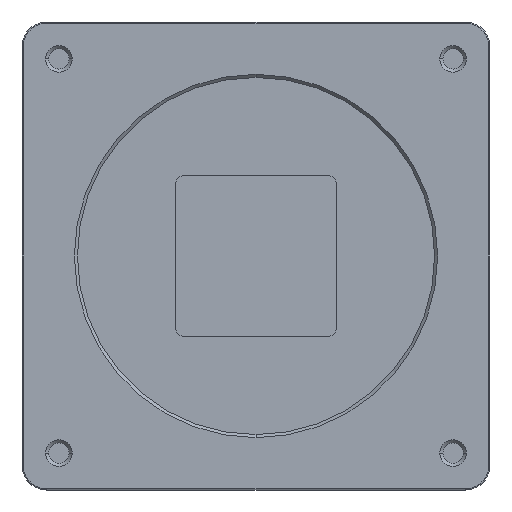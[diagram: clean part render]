
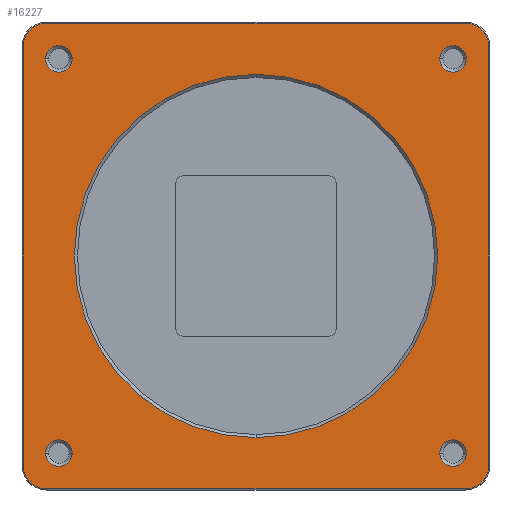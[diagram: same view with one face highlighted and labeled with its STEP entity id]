
A CAD part, front view. The second image highlights one B-rep face of the part: STEP entity #16227.
In plain terms, the highlighted planar face has unit normal (0, -1, 0).
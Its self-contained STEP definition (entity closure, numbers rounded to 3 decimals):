
#1949=DIRECTION('',(0.,0.,1.));
#1950=VECTOR('',#1949,68.);
#1951=CARTESIAN_POINT('',(37.8,-42.5,-34.));
#1952=LINE('',#1951,#1950);
#2020=DIRECTION('',(1.,0.,0.));
#2021=VECTOR('',#2020,68.);
#2022=CARTESIAN_POINT('',(-34.,-42.5,-37.8));
#2023=LINE('',#2022,#2021);
#2071=DIRECTION('',(0.,0.,-1.));
#2072=VECTOR('',#2071,68.);
#2073=CARTESIAN_POINT('',(-37.8,-42.5,34.));
#2074=LINE('',#2073,#2072);
#2142=DIRECTION('',(-1.,0.,0.));
#2143=VECTOR('',#2142,68.);
#2144=CARTESIAN_POINT('',(34.,-42.5,37.8));
#2145=LINE('',#2144,#2143);
#2169=CARTESIAN_POINT('',(-34.,-42.5,-34.));
#2170=DIRECTION('',(0.,1.,0.));
#2171=DIRECTION('',(0.,0.,-1.));
#2172=AXIS2_PLACEMENT_3D('',#2169,#2170,#2171);
#2174=CARTESIAN_POINT('',(-34.,-42.5,34.));
#2175=DIRECTION('',(0.,1.,0.));
#2176=DIRECTION('',(-1.,0.,0.));
#2177=AXIS2_PLACEMENT_3D('',#2174,#2175,#2176);
#2179=CARTESIAN_POINT('',(34.,-42.5,34.));
#2180=DIRECTION('',(0.,1.,0.));
#2181=DIRECTION('',(0.,0.,1.));
#2182=AXIS2_PLACEMENT_3D('',#2179,#2180,#2181);
#2184=CARTESIAN_POINT('',(34.,-42.5,-34.));
#2185=DIRECTION('',(0.,1.,0.));
#2186=DIRECTION('',(1.,0.,0.));
#2187=AXIS2_PLACEMENT_3D('',#2184,#2185,#2186);
#2189=CARTESIAN_POINT('',(-32.,-42.5,-32.));
#2190=DIRECTION('',(0.,-1.,0.));
#2191=DIRECTION('',(-1.,0.,0.));
#2192=AXIS2_PLACEMENT_3D('',#2189,#2190,#2191);
#2194=CARTESIAN_POINT('',(-32.,-42.5,-32.));
#2195=DIRECTION('',(0.,-1.,0.));
#2196=DIRECTION('',(0.,0.,-1.));
#2197=AXIS2_PLACEMENT_3D('',#2194,#2195,#2196);
#2199=CARTESIAN_POINT('',(-32.,-42.5,-32.));
#2200=DIRECTION('',(0.,-1.,0.));
#2201=DIRECTION('',(1.,0.,0.));
#2202=AXIS2_PLACEMENT_3D('',#2199,#2200,#2201);
#2204=CARTESIAN_POINT('',(-32.,-42.5,-32.));
#2205=DIRECTION('',(0.,-1.,0.));
#2206=DIRECTION('',(0.,0.,1.));
#2207=AXIS2_PLACEMENT_3D('',#2204,#2205,#2206);
#2209=CARTESIAN_POINT('',(32.,-42.5,-32.));
#2210=DIRECTION('',(0.,-1.,0.));
#2211=DIRECTION('',(-1.,0.,0.));
#2212=AXIS2_PLACEMENT_3D('',#2209,#2210,#2211);
#2214=CARTESIAN_POINT('',(32.,-42.5,-32.));
#2215=DIRECTION('',(0.,-1.,0.));
#2216=DIRECTION('',(0.,0.,-1.));
#2217=AXIS2_PLACEMENT_3D('',#2214,#2215,#2216);
#2219=CARTESIAN_POINT('',(32.,-42.5,-32.));
#2220=DIRECTION('',(0.,-1.,0.));
#2221=DIRECTION('',(1.,0.,0.));
#2222=AXIS2_PLACEMENT_3D('',#2219,#2220,#2221);
#2224=CARTESIAN_POINT('',(32.,-42.5,-32.));
#2225=DIRECTION('',(0.,-1.,0.));
#2226=DIRECTION('',(0.,0.,1.));
#2227=AXIS2_PLACEMENT_3D('',#2224,#2225,#2226);
#2229=CARTESIAN_POINT('',(32.,-42.5,32.));
#2230=DIRECTION('',(0.,-1.,0.));
#2231=DIRECTION('',(-1.,0.,0.));
#2232=AXIS2_PLACEMENT_3D('',#2229,#2230,#2231);
#2234=CARTESIAN_POINT('',(32.,-42.5,32.));
#2235=DIRECTION('',(0.,-1.,0.));
#2236=DIRECTION('',(0.,0.,-1.));
#2237=AXIS2_PLACEMENT_3D('',#2234,#2235,#2236);
#2239=CARTESIAN_POINT('',(32.,-42.5,32.));
#2240=DIRECTION('',(0.,-1.,0.));
#2241=DIRECTION('',(1.,0.,0.));
#2242=AXIS2_PLACEMENT_3D('',#2239,#2240,#2241);
#2244=CARTESIAN_POINT('',(32.,-42.5,32.));
#2245=DIRECTION('',(0.,-1.,0.));
#2246=DIRECTION('',(0.,0.,1.));
#2247=AXIS2_PLACEMENT_3D('',#2244,#2245,#2246);
#2249=CARTESIAN_POINT('',(0.,-42.5,0.));
#2250=DIRECTION('',(0.,-1.,0.));
#2251=DIRECTION('',(0.,0.,1.));
#2252=AXIS2_PLACEMENT_3D('',#2249,#2250,#2251);
#2254=CARTESIAN_POINT('',(0.,-42.5,0.));
#2255=DIRECTION('',(0.,-1.,0.));
#2256=DIRECTION('',(0.,0.,-1.));
#2257=AXIS2_PLACEMENT_3D('',#2254,#2255,#2256);
#2259=CARTESIAN_POINT('',(-32.,-42.5,32.));
#2260=DIRECTION('',(0.,-1.,0.));
#2261=DIRECTION('',(1.,0.,0.));
#2262=AXIS2_PLACEMENT_3D('',#2259,#2260,#2261);
#2264=CARTESIAN_POINT('',(-32.,-42.5,32.));
#2265=DIRECTION('',(0.,-1.,0.));
#2266=DIRECTION('',(0.,0.,1.));
#2267=AXIS2_PLACEMENT_3D('',#2264,#2265,#2266);
#2269=CARTESIAN_POINT('',(-32.,-42.5,32.));
#2270=DIRECTION('',(0.,-1.,0.));
#2271=DIRECTION('',(-1.,0.,0.));
#2272=AXIS2_PLACEMENT_3D('',#2269,#2270,#2271);
#2274=CARTESIAN_POINT('',(-32.,-42.5,32.));
#2275=DIRECTION('',(0.,-1.,0.));
#2276=DIRECTION('',(0.,0.,-1.));
#2277=AXIS2_PLACEMENT_3D('',#2274,#2275,#2276);
#11252=CARTESIAN_POINT('',(37.8,-42.5,-34.));
#11253=VERTEX_POINT('',#11252);
#11254=CARTESIAN_POINT('',(37.8,-42.5,34.));
#11255=VERTEX_POINT('',#11254);
#11258=CARTESIAN_POINT('',(34.,-42.5,-37.8));
#11259=VERTEX_POINT('',#11258);
#11304=CARTESIAN_POINT('',(0.,-42.5,-29.5));
#11305=CARTESIAN_POINT('',(0.,-42.5,29.5));
#11306=VERTEX_POINT('',#11304);
#11307=VERTEX_POINT('',#11305);
#11308=CARTESIAN_POINT('',(-34.,-42.5,-37.8));
#11309=CARTESIAN_POINT('',(-37.8,-42.5,-34.));
#11310=VERTEX_POINT('',#11308);
#11311=VERTEX_POINT('',#11309);
#11312=CARTESIAN_POINT('',(-37.8,-42.5,34.));
#11313=VERTEX_POINT('',#11312);
#11314=CARTESIAN_POINT('',(-34.,-42.5,37.8));
#11315=VERTEX_POINT('',#11314);
#11316=CARTESIAN_POINT('',(34.,-42.5,37.8));
#11317=VERTEX_POINT('',#11316);
#11318=CARTESIAN_POINT('',(-32.,-42.5,-34.15));
#11319=CARTESIAN_POINT('',(-29.85,-42.5,-32.));
#11320=VERTEX_POINT('',#11318);
#11321=VERTEX_POINT('',#11319);
#11322=CARTESIAN_POINT('',(-34.15,-42.5,-32.));
#11323=VERTEX_POINT('',#11322);
#11324=CARTESIAN_POINT('',(-32.,-42.5,-29.85));
#11325=VERTEX_POINT('',#11324);
#11326=CARTESIAN_POINT('',(32.,-42.5,-34.15));
#11327=CARTESIAN_POINT('',(34.15,-42.5,-32.));
#11328=VERTEX_POINT('',#11326);
#11329=VERTEX_POINT('',#11327);
#11330=CARTESIAN_POINT('',(29.85,-42.5,-32.));
#11331=VERTEX_POINT('',#11330);
#11332=CARTESIAN_POINT('',(32.,-42.5,-29.85));
#11333=VERTEX_POINT('',#11332);
#11334=CARTESIAN_POINT('',(32.,-42.5,29.85));
#11335=CARTESIAN_POINT('',(34.15,-42.5,32.));
#11336=VERTEX_POINT('',#11334);
#11337=VERTEX_POINT('',#11335);
#11338=CARTESIAN_POINT('',(29.85,-42.5,32.));
#11339=VERTEX_POINT('',#11338);
#11340=CARTESIAN_POINT('',(32.,-42.5,34.15));
#11341=VERTEX_POINT('',#11340);
#11342=CARTESIAN_POINT('',(-32.,-42.5,34.15));
#11343=CARTESIAN_POINT('',(-34.15,-42.5,32.));
#11344=VERTEX_POINT('',#11342);
#11345=VERTEX_POINT('',#11343);
#11346=CARTESIAN_POINT('',(-29.85,-42.5,32.));
#11347=VERTEX_POINT('',#11346);
#11348=CARTESIAN_POINT('',(-32.,-42.5,29.85));
#11349=VERTEX_POINT('',#11348);
#16166=CARTESIAN_POINT('',(38.,-42.5,38.));
#16167=DIRECTION('',(0.,-1.,0.));
#16168=DIRECTION('',(0.,0.,-1.));
#16169=AXIS2_PLACEMENT_3D('',#16166,#16167,#16168);
#16170=PLANE('',#16169);
#16171=ORIENTED_EDGE('',*,*,#16005,.T.);
#16172=ORIENTED_EDGE('',*,*,#16058,.F.);
#16173=ORIENTED_EDGE('',*,*,#16073,.T.);
#16174=ORIENTED_EDGE('',*,*,#16134,.F.);
#16175=ORIENTED_EDGE('',*,*,#16148,.T.);
#16176=ORIENTED_EDGE('',*,*,#15913,.F.);
#16177=ORIENTED_EDGE('',*,*,#15929,.T.);
#16178=ORIENTED_EDGE('',*,*,#15990,.F.);
#16179=EDGE_LOOP('',(#16171,#16172,#16173,#16174,#16175,#16176,#16177,#16178));
#16180=FACE_OUTER_BOUND('',#16179,.F.);
#16182=ORIENTED_EDGE('',*,*,#16181,.T.);
#16184=ORIENTED_EDGE('',*,*,#16183,.T.);
#16186=ORIENTED_EDGE('',*,*,#16185,.T.);
#16188=ORIENTED_EDGE('',*,*,#16187,.T.);
#16189=EDGE_LOOP('',(#16182,#16184,#16186,#16188));
#16190=FACE_BOUND('',#16189,.F.);
#16192=ORIENTED_EDGE('',*,*,#16191,.T.);
#16194=ORIENTED_EDGE('',*,*,#16193,.T.);
#16196=ORIENTED_EDGE('',*,*,#16195,.T.);
#16198=ORIENTED_EDGE('',*,*,#16197,.T.);
#16199=EDGE_LOOP('',(#16192,#16194,#16196,#16198));
#16200=FACE_BOUND('',#16199,.F.);
#16202=ORIENTED_EDGE('',*,*,#16201,.T.);
#16204=ORIENTED_EDGE('',*,*,#16203,.T.);
#16206=ORIENTED_EDGE('',*,*,#16205,.T.);
#16208=ORIENTED_EDGE('',*,*,#16207,.T.);
#16209=EDGE_LOOP('',(#16202,#16204,#16206,#16208));
#16210=FACE_BOUND('',#16209,.F.);
#16212=ORIENTED_EDGE('',*,*,#16211,.T.);
#16214=ORIENTED_EDGE('',*,*,#16213,.T.);
#16215=EDGE_LOOP('',(#16212,#16214));
#16216=FACE_BOUND('',#16215,.F.);
#16218=ORIENTED_EDGE('',*,*,#16217,.T.);
#16220=ORIENTED_EDGE('',*,*,#16219,.T.);
#16222=ORIENTED_EDGE('',*,*,#16221,.T.);
#16224=ORIENTED_EDGE('',*,*,#16223,.T.);
#16225=EDGE_LOOP('',(#16218,#16220,#16222,#16224));
#16226=FACE_BOUND('',#16225,.F.);
#16227=ADVANCED_FACE('',(#16180,#16190,#16200,#16210,#16216,#16226),#16170,.T.);
#2173=CIRCLE('',#2172,3.8);
#2178=CIRCLE('',#2177,3.8);
#2183=CIRCLE('',#2182,3.8);
#2188=CIRCLE('',#2187,3.8);
#2193=CIRCLE('',#2192,2.15);
#2198=CIRCLE('',#2197,2.15);
#2203=CIRCLE('',#2202,2.15);
#2208=CIRCLE('',#2207,2.15);
#2213=CIRCLE('',#2212,2.15);
#2218=CIRCLE('',#2217,2.15);
#2223=CIRCLE('',#2222,2.15);
#2228=CIRCLE('',#2227,2.15);
#2233=CIRCLE('',#2232,2.15);
#2238=CIRCLE('',#2237,2.15);
#2243=CIRCLE('',#2242,2.15);
#2248=CIRCLE('',#2247,2.15);
#2253=CIRCLE('',#2252,29.5);
#2258=CIRCLE('',#2257,29.5);
#2263=CIRCLE('',#2262,2.15);
#2268=CIRCLE('',#2267,2.15);
#2273=CIRCLE('',#2272,2.15);
#2278=CIRCLE('',#2277,2.15);
#15913=EDGE_CURVE('',#11253,#11255,#1952,.T.);
#15929=EDGE_CURVE('',#11253,#11259,#2188,.T.);
#15990=EDGE_CURVE('',#11310,#11259,#2023,.T.);
#16005=EDGE_CURVE('',#11310,#11311,#2173,.T.);
#16058=EDGE_CURVE('',#11313,#11311,#2074,.T.);
#16073=EDGE_CURVE('',#11313,#11315,#2178,.T.);
#16134=EDGE_CURVE('',#11317,#11315,#2145,.T.);
#16148=EDGE_CURVE('',#11317,#11255,#2183,.T.);
#16181=EDGE_CURVE('',#11323,#11320,#2193,.T.);
#16183=EDGE_CURVE('',#11320,#11321,#2198,.T.);
#16185=EDGE_CURVE('',#11321,#11325,#2203,.T.);
#16187=EDGE_CURVE('',#11325,#11323,#2208,.T.);
#16191=EDGE_CURVE('',#11331,#11328,#2213,.T.);
#16193=EDGE_CURVE('',#11328,#11329,#2218,.T.);
#16195=EDGE_CURVE('',#11329,#11333,#2223,.T.);
#16197=EDGE_CURVE('',#11333,#11331,#2228,.T.);
#16201=EDGE_CURVE('',#11339,#11336,#2233,.T.);
#16203=EDGE_CURVE('',#11336,#11337,#2238,.T.);
#16205=EDGE_CURVE('',#11337,#11341,#2243,.T.);
#16207=EDGE_CURVE('',#11341,#11339,#2248,.T.);
#16211=EDGE_CURVE('',#11307,#11306,#2253,.T.);
#16213=EDGE_CURVE('',#11306,#11307,#2258,.T.);
#16217=EDGE_CURVE('',#11347,#11344,#2263,.T.);
#16219=EDGE_CURVE('',#11344,#11345,#2268,.T.);
#16221=EDGE_CURVE('',#11345,#11349,#2273,.T.);
#16223=EDGE_CURVE('',#11349,#11347,#2278,.T.);
